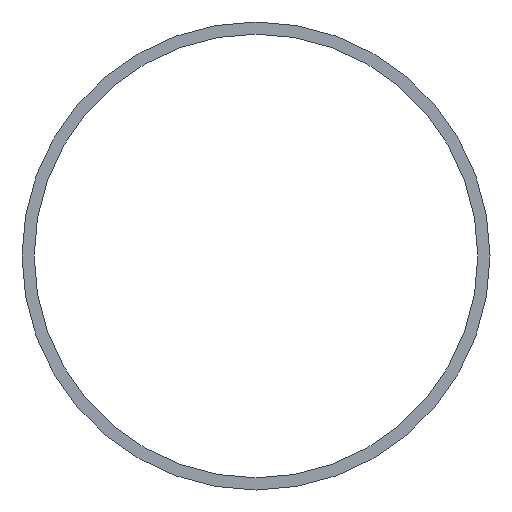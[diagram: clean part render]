
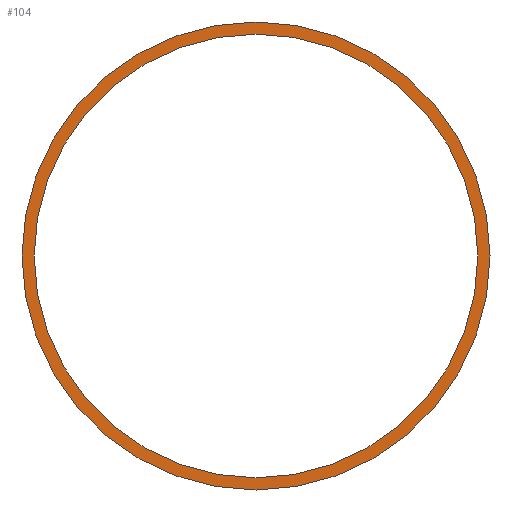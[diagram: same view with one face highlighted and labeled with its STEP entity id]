
A CAD part, front view. The second image highlights one B-rep face of the part: STEP entity #104.
In plain terms, the highlighted planar face has unit normal (0, -1, 0).
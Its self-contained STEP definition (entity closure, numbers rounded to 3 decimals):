
#96=PLANE('',#195);
#99=FACE_BOUND('',#119,.T.);
#100=FACE_BOUND('',#120,.T.);
#104=ADVANCED_FACE('',(#99,#100),#96,.F.);
#119=EDGE_LOOP('',(#143,#144));
#120=EDGE_LOOP('',(#145,#146));
#143=ORIENTED_EDGE('',*,*,#173,.F.);
#144=ORIENTED_EDGE('',*,*,#169,.F.);
#145=ORIENTED_EDGE('',*,*,#165,.T.);
#146=ORIENTED_EDGE('',*,*,#174,.T.);
#157=VERTEX_POINT('',#237);
#158=VERTEX_POINT('',#239);
#161=VERTEX_POINT('',#246);
#162=VERTEX_POINT('',#248);
#165=EDGE_CURVE('',#158,#157,#176,.T.);
#169=EDGE_CURVE('',#161,#162,#178,.T.);
#173=EDGE_CURVE('',#162,#161,#181,.T.);
#174=EDGE_CURVE('',#157,#158,#182,.T.);
#176=CIRCLE('',#185,40.2);
#178=CIRCLE('',#188,42.4);
#181=CIRCLE('',#193,42.4);
#182=CIRCLE('',#194,40.2);
#185=AXIS2_PLACEMENT_3D('',#238,#203,#204);
#188=AXIS2_PLACEMENT_3D('',#247,#211,#212);
#193=AXIS2_PLACEMENT_3D('',#254,#222,#223);
#194=AXIS2_PLACEMENT_3D('',#255,#224,#225);
#195=AXIS2_PLACEMENT_3D('',#256,#226,#227);
#203=DIRECTION('',(0.,1.,0.));
#204=DIRECTION('',(0.,0.,1.));
#211=DIRECTION('',(0.,1.,0.));
#212=DIRECTION('',(0.,0.,1.));
#222=DIRECTION('',(0.,1.,0.));
#223=DIRECTION('',(0.,0.,1.));
#224=DIRECTION('',(0.,1.,0.));
#225=DIRECTION('',(0.,0.,1.));
#226=DIRECTION('',(0.,1.,0.));
#227=DIRECTION('',(0.,0.,-1.));
#237=CARTESIAN_POINT('',(0.,0.,40.2));
#238=CARTESIAN_POINT('',(0.,0.,0.));
#239=CARTESIAN_POINT('',(0.,0.,-40.2));
#246=CARTESIAN_POINT('',(0.,0.,42.4));
#247=CARTESIAN_POINT('',(0.,0.,0.));
#248=CARTESIAN_POINT('',(0.,0.,-42.4));
#254=CARTESIAN_POINT('',(0.,0.,0.));
#255=CARTESIAN_POINT('',(0.,0.,0.));
#256=CARTESIAN_POINT('',(0.,0.,0.));
